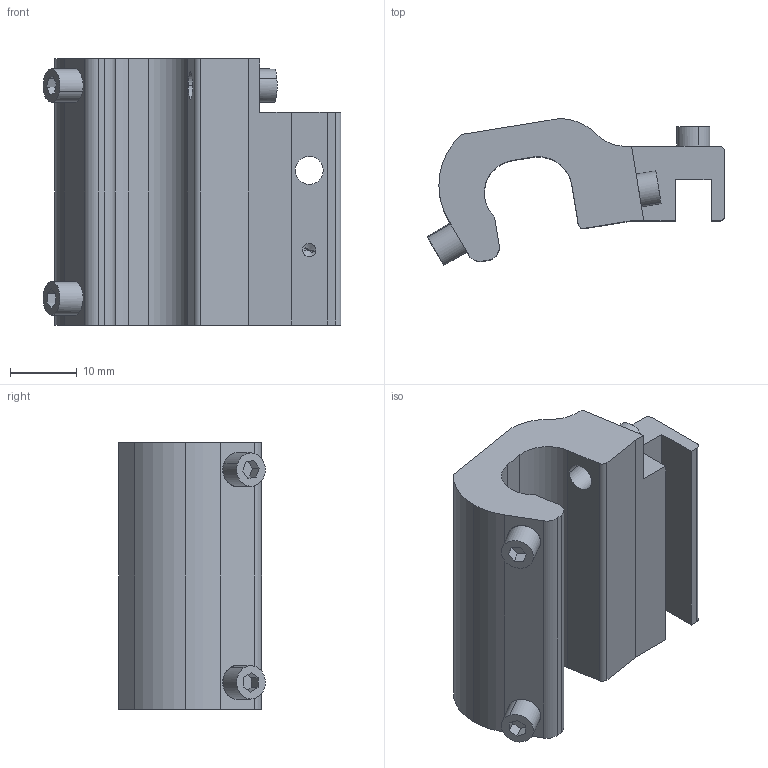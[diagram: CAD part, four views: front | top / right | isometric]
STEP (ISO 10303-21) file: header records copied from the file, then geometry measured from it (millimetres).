
FILE_DESCRIPTION (( 'STEP AP203' ), '1' );
FILE_NAME ('KLZ3M-UNT.step', '2021-03-02T18:56:18', ( '' ), ( '' ), 'SwSTEP 2.0', 'SolidWorks 2019', '' );
FILE_SCHEMA (( 'CONFIG_CONTROL_DESIGN' ));
Length unit declared in the file: millimetre
Products named in the file (1): KLZ3M-UNT
Bounding box: 44.78 x 22.04 x 40 mm (x, y, z)
Volume: 16467.2 mm3; surface area: 6812.9 mm2
Topology: 1 solids, 1 shells, 99 faces, 262 edges, 170 vertices
Faces by surface type: plane 53, cylinder 28, cone 18
Entity records: 3155 total; most frequent: CARTESIAN_POINT 596, DIRECTION 524, ORIENTED_EDGE 508, EDGE_CURVE 254, AXIS2_PLACEMENT_3D 178, VERTEX_POINT 170, VECTOR 168, LINE 168
